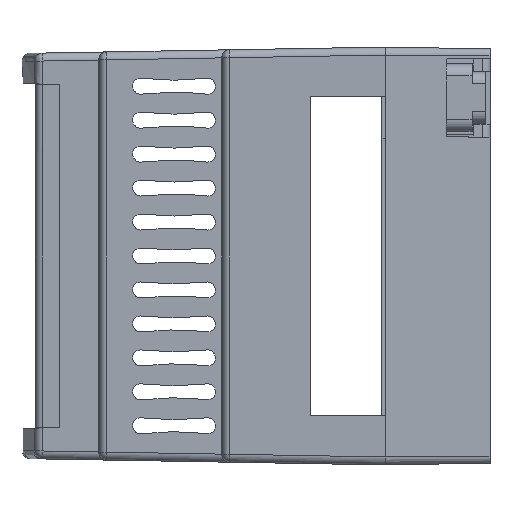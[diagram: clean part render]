
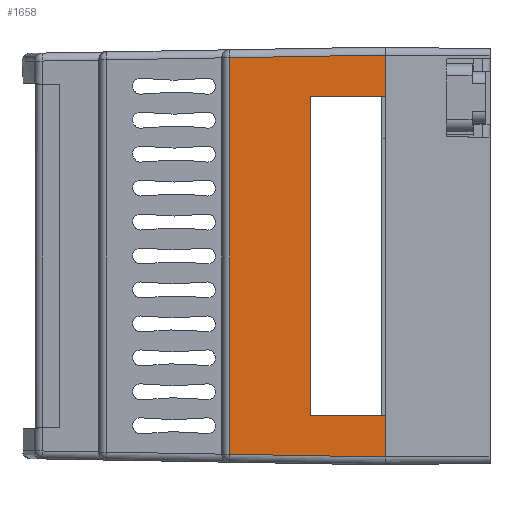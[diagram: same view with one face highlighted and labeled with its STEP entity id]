
A CAD part, left-side view. The second image highlights one B-rep face of the part: STEP entity #1658.
In plain terms, the highlighted planar face has unit normal (-1, 0.018, 0).
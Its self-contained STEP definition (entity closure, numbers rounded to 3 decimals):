
#594 = CARTESIAN_POINT ( 'NONE',  ( -45.084, -13.35, 20.05 ) ) ;
#627 = CARTESIAN_POINT ( 'NONE',  ( -44.908, -3.233, -24.908 ) ) ;
#632 = ORIENTED_EDGE ( 'NONE', *, *, #4961, .F. ) ;
#1658 = ADVANCED_FACE ( 'NONE', ( #3451 ), #11485, .T. ) ;
#1699 = LINE ( 'NONE', #7625, #6648 ) ;
#1889 = VECTOR ( 'NONE', #24786, 1000. ) ;
#2115 = DIRECTION ( 'NONE',  ( 0., 0., -1. ) ) ;
#2239 = VERTEX_POINT ( 'NONE', #594 ) ;
#2718 = AXIS2_PLACEMENT_3D ( 'NONE', #5600, #13747, #3585 ) ;
#3451 = FACE_OUTER_BOUND ( 'NONE', #20720, .T. ) ;
#3585 = DIRECTION ( 'NONE',  ( -0.017, -1., 0. ) ) ;
#3942 = EDGE_CURVE ( 'NONE', #21755, #6102, #26331, .T. ) ;
#4027 = DIRECTION ( 'NONE',  ( 0., 0., -1. ) ) ;
#4401 = VECTOR ( 'NONE', #17783, 1000. ) ;
#4961 = EDGE_CURVE ( 'NONE', #9017, #2239, #24718, .T. ) ;
#5182 = EDGE_CURVE ( 'NONE', #16472, #21118, #26059, .T. ) ;
#5600 = CARTESIAN_POINT ( 'NONE',  ( -46.416, -89.645, 26.25 ) ) ;
#6025 = CARTESIAN_POINT ( 'NONE',  ( -46.416, -89.645, -20.05 ) ) ;
#6040 = ORIENTED_EDGE ( 'NONE', *, *, #3942, .T. ) ;
#6102 = VERTEX_POINT ( 'NONE', #627 ) ;
#6454 = VECTOR ( 'NONE', #4027, 1000. ) ;
#6648 = VECTOR ( 'NONE', #9897, 1000. ) ;
#6962 = VECTOR ( 'NONE', #14730, 1000. ) ;
#7625 = CARTESIAN_POINT ( 'NONE',  ( -45.25, -22.85, 26.25 ) ) ;
#8197 = ORIENTED_EDGE ( 'NONE', *, *, #12922, .T. ) ;
#8298 = LINE ( 'NONE', #12165, #9940 ) ;
#8428 = CARTESIAN_POINT ( 'NONE',  ( -45.25, -22.85, -20.05 ) ) ;
#8661 = VECTOR ( 'NONE', #9167, 1000. ) ;
#9017 = VERTEX_POINT ( 'NONE', #19534 ) ;
#9167 = DIRECTION ( 'NONE',  ( 0., 0., -1. ) ) ;
#9897 = DIRECTION ( 'NONE',  ( 0., 0., -1. ) ) ;
#9940 = VECTOR ( 'NONE', #24676, 1000. ) ;
#10446 = CARTESIAN_POINT ( 'NONE',  ( -44.908, -3.233, 26.25 ) ) ;
#11423 = ORIENTED_EDGE ( 'NONE', *, *, #18401, .F. ) ;
#11485 = PLANE ( 'NONE',  #2718 ) ;
#11933 = ORIENTED_EDGE ( 'NONE', *, *, #20372, .T. ) ;
#12165 = CARTESIAN_POINT ( 'NONE',  ( -45.25, -22.867, -25.25 ) ) ;
#12922 = EDGE_CURVE ( 'NONE', #16394, #21755, #16650, .T. ) ;
#13747 = DIRECTION ( 'NONE',  ( -1., 0.017, 0. ) ) ;
#14219 = ORIENTED_EDGE ( 'NONE', *, *, #5182, .F. ) ;
#14251 = EDGE_CURVE ( 'NONE', #21118, #22469, #1699, .T. ) ;
#14730 = DIRECTION ( 'NONE',  ( 0.017, 1., 0. ) ) ;
#14948 = CARTESIAN_POINT ( 'NONE',  ( -45.25, -22.85, 25.25 ) ) ;
#15379 = ORIENTED_EDGE ( 'NONE', *, *, #14251, .F. ) ;
#16394 = VERTEX_POINT ( 'NONE', #14948 ) ;
#16472 = VERTEX_POINT ( 'NONE', #23256 ) ;
#16650 = LINE ( 'NONE', #17049, #1889 ) ;
#16719 = CARTESIAN_POINT ( 'NONE',  ( -46.416, -89.645, 20.05 ) ) ;
#17049 = CARTESIAN_POINT ( 'NONE',  ( -44.891, -2.267, 24.891 ) ) ;
#17606 = ORIENTED_EDGE ( 'NONE', *, *, #24217, .F. ) ;
#17783 = DIRECTION ( 'NONE',  ( -0.017, -1., 0. ) ) ;
#18401 = EDGE_CURVE ( 'NONE', #16394, #9017, #20301, .T. ) ;
#19534 = CARTESIAN_POINT ( 'NONE',  ( -45.25, -22.85, 20.05 ) ) ;
#20301 = LINE ( 'NONE', #25379, #22628 ) ;
#20372 = EDGE_CURVE ( 'NONE', #6102, #22469, #8298, .T. ) ;
#20720 = EDGE_LOOP ( 'NONE', ( #632, #11423, #8197, #6040, #11933, #15379, #14219, #17606 ) ) ;
#21118 = VERTEX_POINT ( 'NONE', #8428 ) ;
#21755 = VERTEX_POINT ( 'NONE', #23885 ) ;
#22469 = VERTEX_POINT ( 'NONE', #23230 ) ;
#22628 = VECTOR ( 'NONE', #2115, 1000. ) ;
#23230 = CARTESIAN_POINT ( 'NONE',  ( -45.25, -22.85, -25.25 ) ) ;
#23256 = CARTESIAN_POINT ( 'NONE',  ( -45.084, -13.35, -20.05 ) ) ;
#23682 = LINE ( 'NONE', #23807, #8661 ) ;
#23807 = CARTESIAN_POINT ( 'NONE',  ( -45.084, -13.35, 26.25 ) ) ;
#23885 = CARTESIAN_POINT ( 'NONE',  ( -44.908, -3.233, 24.908 ) ) ;
#24217 = EDGE_CURVE ( 'NONE', #2239, #16472, #23682, .T. ) ;
#24676 = DIRECTION ( 'NONE',  ( -0.017, -1., -0.017 ) ) ;
#24718 = LINE ( 'NONE', #16719, #6962 ) ;
#24786 = DIRECTION ( 'NONE',  ( 0.017, 1., -0.017 ) ) ;
#25379 = CARTESIAN_POINT ( 'NONE',  ( -45.25, -22.85, 26.25 ) ) ;
#26059 = LINE ( 'NONE', #6025, #4401 ) ;
#26331 = LINE ( 'NONE', #10446, #6454 ) ;
